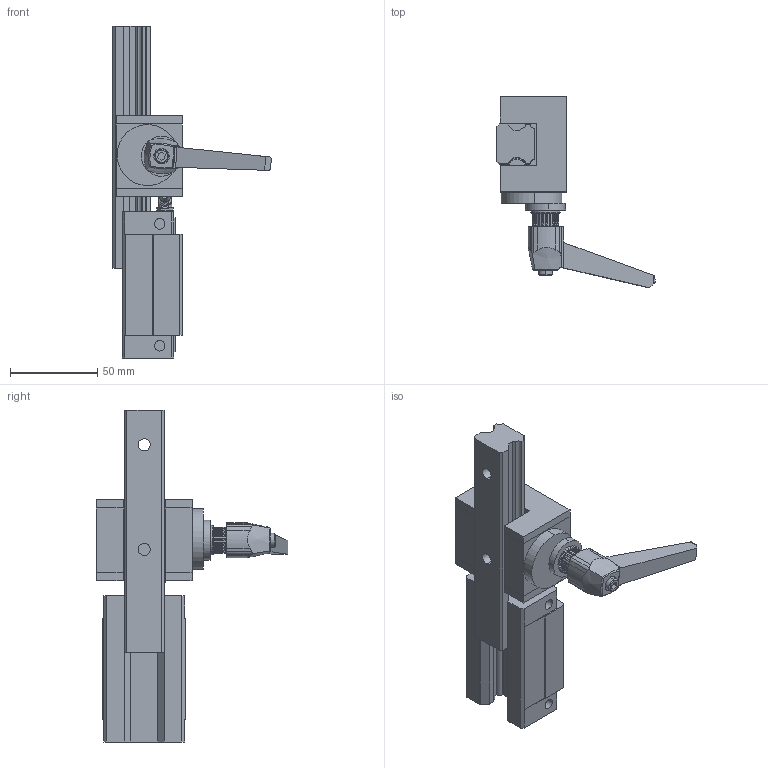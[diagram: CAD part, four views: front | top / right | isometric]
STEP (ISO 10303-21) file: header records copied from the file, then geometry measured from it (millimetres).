
FILE_DESCRIPTION (( 'STEP AP203' ), '1' );
FILE_NAME ('TRAVA T RILHO_25.STEP', '2023-09-14T18:33:19', ( '' ), ( '' ), 'SwSTEP 2.0', 'SolidWorks 2019', '' );
FILE_SCHEMA (( 'CONFIG_CONTROL_DESIGN' ));
Length unit declared in the file: millimetre
Products named in the file (10): BN_14189_1870858_adjustable_handle_41521; TRAVA T RILHO_25; KRH25-VL-N-Z0; MOEDA; GUIA_25; spring lock washer 2_din_DIN 6905-9.3-FSt; PINO PRESSIONADOR; clamping device washer_din_DIN 6340-8.4; TAMPA; CUBO_TRAVA
Assembly tree (10 placements, depth 2):
  TRAVA T RILHO_25
    GUIA_25
    KRH25-VL-N-Z0
    CUBO_TRAVA
    PINO PRESSIONADOR
    TAMPA  x2
    MOEDA
    BN_14189_1870858_adjustable_handle_41521
    spring lock washer 2_din_DIN 6905-9.3-FSt
    clamping device washer_din_DIN 6340-8.4
Bounding box: 91.04 x 109.95 x 190.64 mm (x, y, z)
Volume: 253292.8 mm3; surface area: 69968.4 mm2
Topology: 10 solids, 10 shells, 478 faces, 1234 edges, 789 vertices
Faces by surface type: plane 236, cylinder 146, cone 89, torus 4, bspline 3
Entity records: 15985 total; most frequent: CARTESIAN_POINT 3568, ORIENTED_EDGE 2380, DIRECTION 2342, EDGE_CURVE 1190, AXIS2_PLACEMENT_3D 827, VERTEX_POINT 773, VECTOR 688, LINE 688
